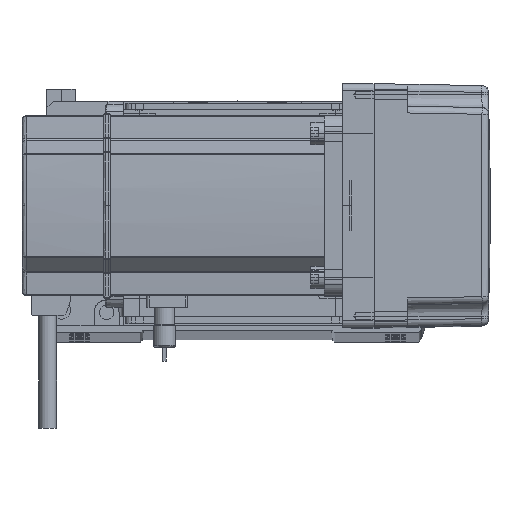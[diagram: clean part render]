
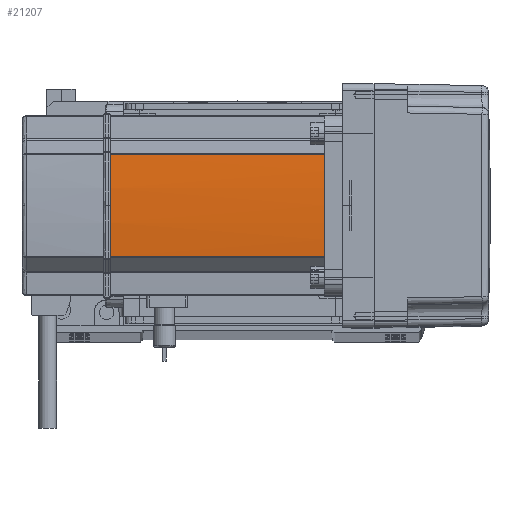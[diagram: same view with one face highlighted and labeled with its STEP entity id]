
A CAD part, top view. The second image highlights one B-rep face of the part: STEP entity #21207.
In plain terms, the highlighted cylindrical face has radius 270 mm (diameter 540 mm), a partial arc.
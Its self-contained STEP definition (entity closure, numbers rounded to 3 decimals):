
#1148 = ORIENTED_EDGE ( 'NONE', *, *, #5063, .T. ) ;
#2000 = VERTEX_POINT ( 'NONE', #26462 ) ;
#3931 = DIRECTION ( 'NONE',  ( 0., 0., -1. ) ) ;
#4246 = DIRECTION ( 'NONE',  ( 0., 0., -1. ) ) ;
#4689 = EDGE_CURVE ( 'NONE', #2000, #20124, #42506, .T. ) ;
#4790 = ORIENTED_EDGE ( 'NONE', *, *, #29762, .T. ) ;
#5063 = EDGE_CURVE ( 'NONE', #2000, #10681, #38477, .T. ) ;
#6270 = AXIS2_PLACEMENT_3D ( 'NONE', #18908, #4246, #48854 ) ;
#7820 = VECTOR ( 'NONE', #3931, 1000. ) ;
#10681 = VERTEX_POINT ( 'NONE', #51063 ) ;
#13185 = CARTESIAN_POINT ( 'NONE',  ( -39.042, -22.724, 0. ) ) ;
#13243 = DIRECTION ( 'NONE',  ( 1., 0., 0. ) ) ;
#16551 = ORIENTED_EDGE ( 'NONE', *, *, #37221, .T. ) ;
#17706 = VECTOR ( 'NONE', #57867, 1000. ) ;
#18908 = CARTESIAN_POINT ( 'NONE',  ( 230., 0., 39. ) ) ;
#20124 = VERTEX_POINT ( 'NONE', #21151 ) ;
#20277 = CARTESIAN_POINT ( 'NONE',  ( -39.042, 22.724, 134. ) ) ;
#21151 = CARTESIAN_POINT ( 'NONE',  ( -39.042, 22.724, 39. ) ) ;
#21207 = ADVANCED_FACE ( 'NONE', ( #25068 ), #29654, .T. ) ;
#21447 = EDGE_LOOP ( 'NONE', ( #4790, #32393, #16551, #27976, #1148 ) ) ;
#22020 = CARTESIAN_POINT ( 'NONE',  ( 230., 0., 0. ) ) ;
#25068 = FACE_OUTER_BOUND ( 'NONE', #21447, .T. ) ;
#25601 = LINE ( 'NONE', #53191, #7820 ) ;
#25963 = AXIS2_PLACEMENT_3D ( 'NONE', #32829, #42618, #13243 ) ;
#26462 = CARTESIAN_POINT ( 'NONE',  ( -39.042, -22.724, 39. ) ) ;
#27976 = ORIENTED_EDGE ( 'NONE', *, *, #4689, .F. ) ;
#28135 = CIRCLE ( 'NONE', #25963, 270. ) ;
#29654 = CYLINDRICAL_SURFACE ( 'NONE', #42715, 270. ) ;
#29762 = EDGE_CURVE ( 'NONE', #10681, #61767, #28135, .T. ) ;
#29983 = CARTESIAN_POINT ( 'NONE',  ( 230., 0., 134. ) ) ;
#30610 = DIRECTION ( 'NONE',  ( 1., 0., 0. ) ) ;
#32049 = AXIS2_PLACEMENT_3D ( 'NONE', #29983, #54734, #30610 ) ;
#32393 = ORIENTED_EDGE ( 'NONE', *, *, #50785, .T. ) ;
#32829 = CARTESIAN_POINT ( 'NONE',  ( 230., 0., 134. ) ) ;
#37221 = EDGE_CURVE ( 'NONE', #39418, #20124, #25601, .T. ) ;
#37445 = DIRECTION ( 'NONE',  ( 1., 0., 0. ) ) ;
#38477 = LINE ( 'NONE', #13185, #17706 ) ;
#39418 = VERTEX_POINT ( 'NONE', #20277 ) ;
#42506 = CIRCLE ( 'NONE', #6270, 270. ) ;
#42618 = DIRECTION ( 'NONE',  ( 0., 0., -1. ) ) ;
#42715 = AXIS2_PLACEMENT_3D ( 'NONE', #22020, #56372, #37445 ) ;
#48854 = DIRECTION ( 'NONE',  ( 1., 0., 0. ) ) ;
#50785 = EDGE_CURVE ( 'NONE', #61767, #39418, #51012, .T. ) ;
#51012 = CIRCLE ( 'NONE', #32049, 270. ) ;
#51063 = CARTESIAN_POINT ( 'NONE',  ( -39.042, -22.724, 134. ) ) ;
#53191 = CARTESIAN_POINT ( 'NONE',  ( -39.042, 22.724, 0. ) ) ;
#54235 = CARTESIAN_POINT ( 'NONE',  ( -40., 0., 134. ) ) ;
#54734 = DIRECTION ( 'NONE',  ( 0., 0., -1. ) ) ;
#56372 = DIRECTION ( 'NONE',  ( 0., 0., 1. ) ) ;
#57867 = DIRECTION ( 'NONE',  ( 0., 0., 1. ) ) ;
#61767 = VERTEX_POINT ( 'NONE', #54235 ) ;
